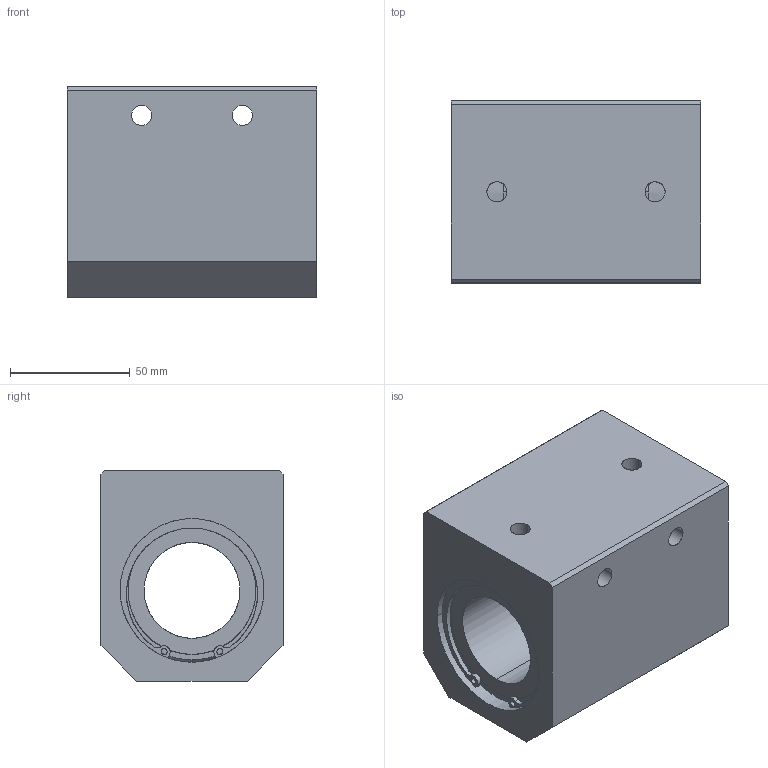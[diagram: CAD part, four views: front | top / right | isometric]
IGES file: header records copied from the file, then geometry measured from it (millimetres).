
Global section: file name: No Iges File Name specified; native system: AutoDesk Inventor R11.0; preprocessor: AutoDesk Inventor Iges Exporter R11.0; author: No Author specified; organization: No Organization specified; date: 20170921.152511; units: millimetre
Bounding box: 104 x 76 x 88 mm (x, y, z)
Surface area: 66214.4 mm2 (no closed solid volume)
Topology: 0 solids, 0 shells, 98 faces, 776 edges, 776 vertices
Faces by surface type: bspline 98
